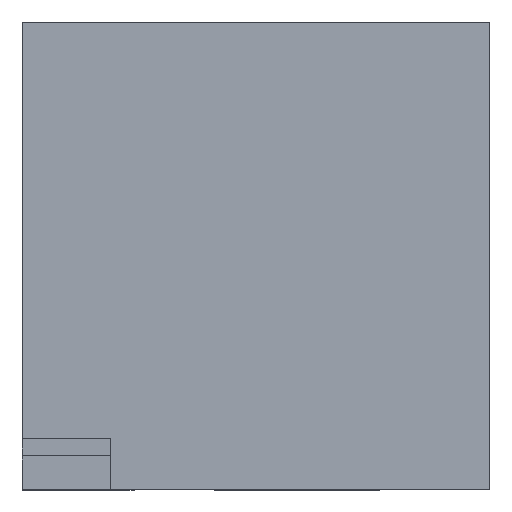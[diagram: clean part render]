
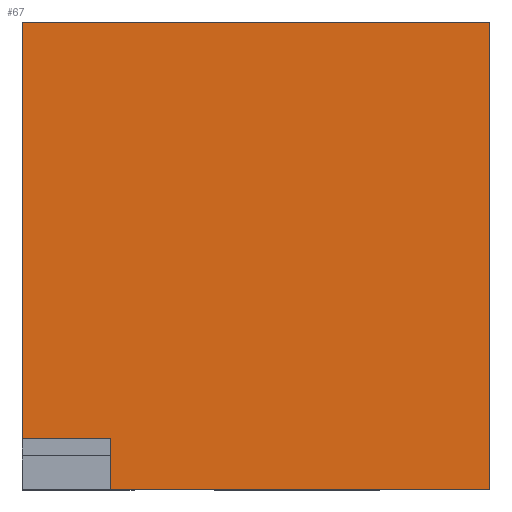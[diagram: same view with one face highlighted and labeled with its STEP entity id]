
A CAD part, top view. The second image highlights one B-rep face of the part: STEP entity #67.
In plain terms, the highlighted planar face has unit normal (0, 0, 1).
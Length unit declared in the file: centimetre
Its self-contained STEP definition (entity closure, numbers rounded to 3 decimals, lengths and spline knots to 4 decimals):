
#14 = LINE ( 'NONE', #1079, #1023 ) ;
#55 = VECTOR ( 'NONE', #1427, 100. ) ;
#67 = ADVANCED_FACE ( 'NONE', ( #1062 ), #270, .T. ) ;
#94 = EDGE_CURVE ( 'NONE', #350, #1143, #617, .T. ) ;
#121 = ORIENTED_EDGE ( 'NONE', *, *, #1004, .F. ) ;
#192 = DIRECTION ( 'NONE',  ( 0., 1., 0. ) ) ;
#220 = ORIENTED_EDGE ( 'NONE', *, *, #1382, .T. ) ;
#270 = PLANE ( 'NONE',  #488 ) ;
#306 = EDGE_LOOP ( 'NONE', ( #1327, #121, #880, #1304, #220, #1524 ) ) ;
#322 = VERTEX_POINT ( 'NONE', #1116 ) ;
#350 = VERTEX_POINT ( 'NONE', #669 ) ;
#373 = EDGE_CURVE ( 'NONE', #633, #1143, #14, .T. ) ;
#385 = CARTESIAN_POINT ( 'NONE',  ( 1000., 1000., 1000. ) ) ;
#389 = DIRECTION ( 'NONE',  ( 1., 0., 0. ) ) ;
#418 = CARTESIAN_POINT ( 'NONE',  ( 188.6556, 109.2248, 1000. ) ) ;
#436 = LINE ( 'NONE', #1020, #547 ) ;
#483 = CARTESIAN_POINT ( 'NONE',  ( 0., 1000., 1000. ) ) ;
#485 = VERTEX_POINT ( 'NONE', #385 ) ;
#488 = AXIS2_PLACEMENT_3D ( 'NONE', #1211, #860, #1334 ) ;
#547 = VECTOR ( 'NONE', #1255, 100. ) ;
#571 = LINE ( 'NONE', #483, #55 ) ;
#606 = LINE ( 'NONE', #1459, #1016 ) ;
#613 = VECTOR ( 'NONE', #1085, 100. ) ;
#617 = LINE ( 'NONE', #1092, #613 ) ;
#629 = VECTOR ( 'NONE', #192, 100. ) ;
#633 = VERTEX_POINT ( 'NONE', #418 ) ;
#669 = CARTESIAN_POINT ( 'NONE',  ( 0., 1000., 1000. ) ) ;
#860 = DIRECTION ( 'NONE',  ( 0., 0., 1. ) ) ;
#869 = DIRECTION ( 'NONE',  ( -1., 0., 0. ) ) ;
#880 = ORIENTED_EDGE ( 'NONE', *, *, #1536, .T. ) ;
#1004 = EDGE_CURVE ( 'NONE', #322, #633, #1262, .T. ) ;
#1016 = VECTOR ( 'NONE', #389, 100. ) ;
#1020 = CARTESIAN_POINT ( 'NONE',  ( 1000., 1000., 1000. ) ) ;
#1023 = VECTOR ( 'NONE', #869, 100. ) ;
#1060 = CARTESIAN_POINT ( 'NONE',  ( 1000., 0., 1000. ) ) ;
#1062 = FACE_OUTER_BOUND ( 'NONE', #306, .T. ) ;
#1079 = CARTESIAN_POINT ( 'NONE',  ( 0., 109.2248, 1000. ) ) ;
#1085 = DIRECTION ( 'NONE',  ( 0., -1., 0. ) ) ;
#1092 = CARTESIAN_POINT ( 'NONE',  ( 0., 1000., 1000. ) ) ;
#1112 = EDGE_CURVE ( 'NONE', #1471, #485, #436, .T. ) ;
#1116 = CARTESIAN_POINT ( 'NONE',  ( 188.6556, 0., 1000. ) ) ;
#1126 = CARTESIAN_POINT ( 'NONE',  ( 0., 109.2248, 1000. ) ) ;
#1143 = VERTEX_POINT ( 'NONE', #1126 ) ;
#1211 = CARTESIAN_POINT ( 'NONE',  ( 0., 0., 1000. ) ) ;
#1255 = DIRECTION ( 'NONE',  ( 0., 1., 0. ) ) ;
#1262 = LINE ( 'NONE', #1370, #629 ) ;
#1304 = ORIENTED_EDGE ( 'NONE', *, *, #1112, .T. ) ;
#1327 = ORIENTED_EDGE ( 'NONE', *, *, #373, .F. ) ;
#1334 = DIRECTION ( 'NONE',  ( 1., 0., 0. ) ) ;
#1370 = CARTESIAN_POINT ( 'NONE',  ( 188.6556, 0., 1000. ) ) ;
#1382 = EDGE_CURVE ( 'NONE', #485, #350, #571, .T. ) ;
#1427 = DIRECTION ( 'NONE',  ( -1., 0., 0. ) ) ;
#1459 = CARTESIAN_POINT ( 'NONE',  ( 0., 0., 1000. ) ) ;
#1471 = VERTEX_POINT ( 'NONE', #1060 ) ;
#1524 = ORIENTED_EDGE ( 'NONE', *, *, #94, .T. ) ;
#1536 = EDGE_CURVE ( 'NONE', #322, #1471, #606, .T. ) ;
